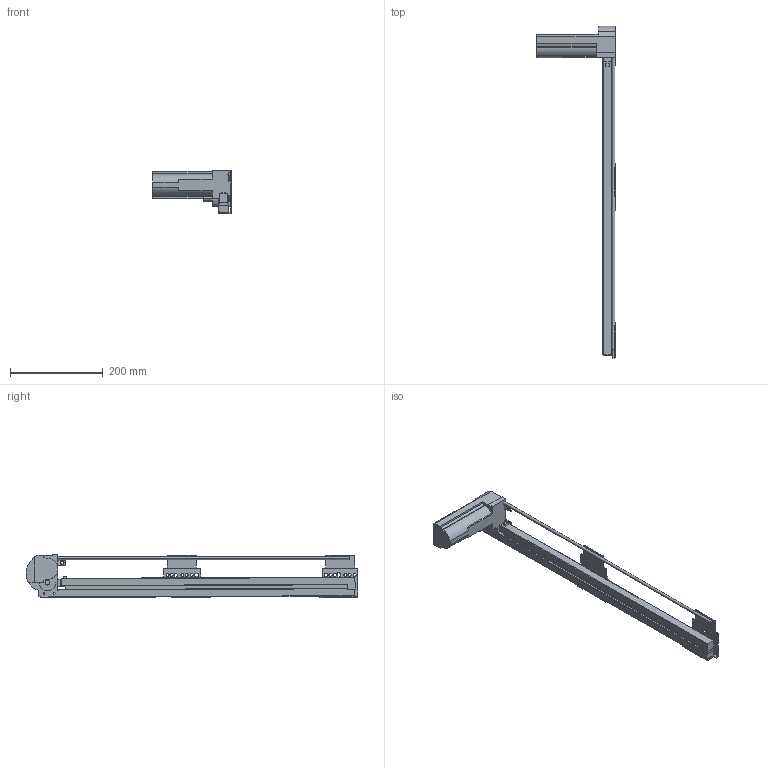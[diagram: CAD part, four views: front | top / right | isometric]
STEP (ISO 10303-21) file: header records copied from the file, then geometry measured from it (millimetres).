
FILE_DESCRIPTION (( 'STEP AP214' ), '1' );
FILE_NAME ('_IMOS_NOVA-Pro_Sensotronic_KS_P907_RE_NL-650_EB29mm.step', '2010-07-23T08:20:03', ( 'grass' ), ( '' ), 'SwSTEP 2.0', 'SolidWorks 2009', '' );
FILE_SCHEMA (( 'AUTOMOTIVE_DESIGN' ));
Length unit declared in the file: millimetre
Products named in the file (1): _IMOS_NOVA-Pro_Sensotronic_KS_P907_RE_NL-650_EB29mm
Bounding box: 169.95 x 716.61 x 94.59 mm (x, y, z)
Volume: 978563.4 mm3; surface area: 190514.2 mm2
Topology: 3 solids, 3 shells, 194 faces, 554 edges, 368 vertices
Faces by surface type: plane 119, cylinder 75
Entity records: 6477 total; most frequent: CARTESIAN_POINT 1129, ORIENTED_EDGE 1108, DIRECTION 1095, EDGE_CURVE 554, LINE 395, VECTOR 395, VERTEX_POINT 368, AXIS2_PLACEMENT_3D 350
